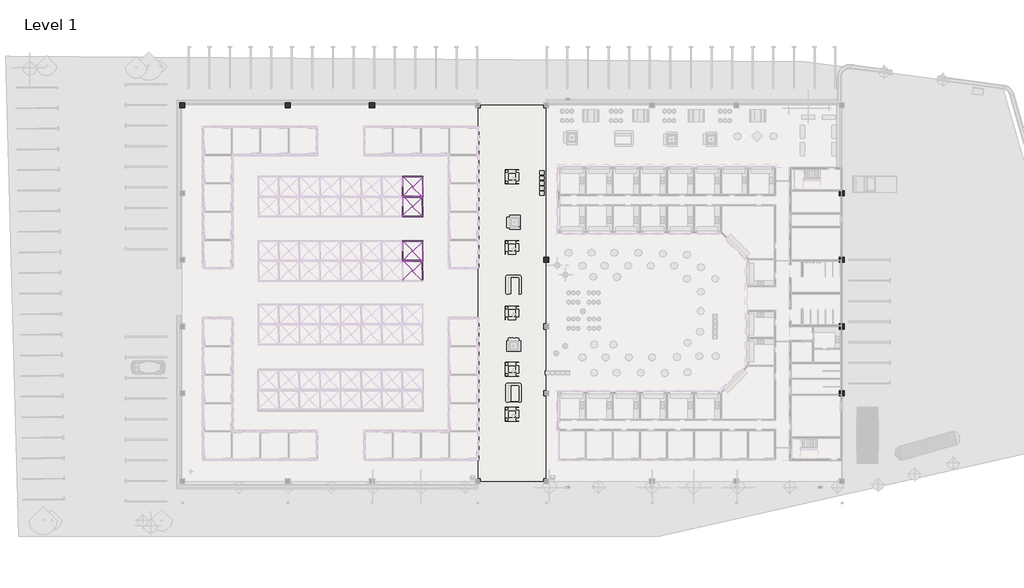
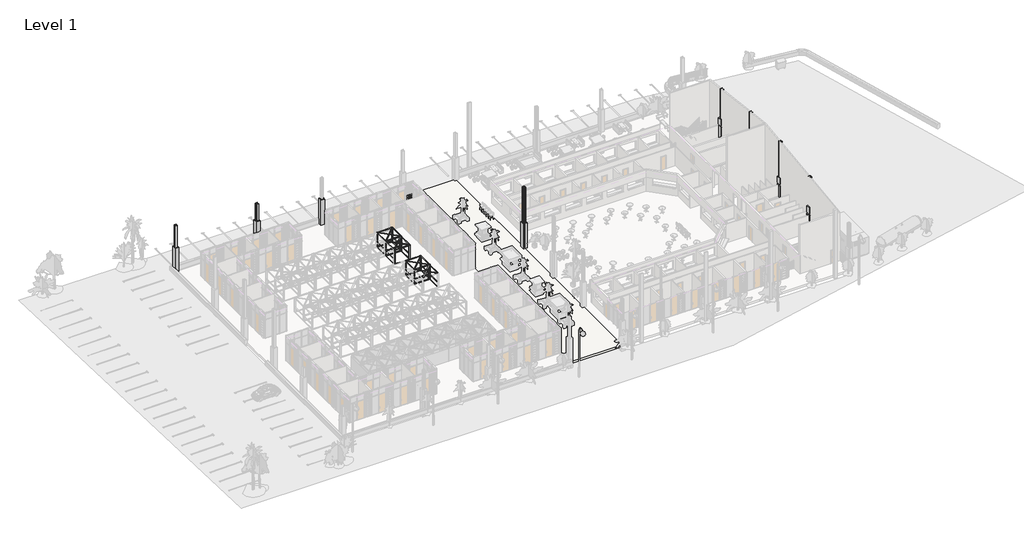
# One storey, part 26 of 32: 47 beams, 29 columns, 1 slab.
"""IFC4 building model written with IfcOpenShell, lengths in millimetres."""

from ifc_helpers import new_model, si_unit, point, frame, frame_2d, origin, place, context, project, spatial, polyline, circle_curve, trimmed, segment, composite_curve, outline, extrude, faceted_brep, transform, mapped, element, save
from components import timber_gauged_nz_100_x_50_a05adcf6, timber_gauged_nz_100_x_50_e4b9d06e, timber_gauged_nz_100_x_50_66b63d81, timber_gauged_nz_100_x_50_718b6390, timber_gauged_nz_100_x_50_7774ab14, timber_gauged_nz_100_x_50_be6c7ca1, timber_gauged_nz_100_x_50_6be5a70a, timber_gauged_nz_100_x_50_7b7bee40, timber_gauged_nz_100_x_50_flat_212af973, timber_gauged_nz_100_x_50_flat_8016973c, column_timber_m_114x114_3b5997c2

model = new_model("IFC4")

# Units and contexts
model_context = context("Model", 3, world=origin())
ifc_project = project(units=[si_unit("LENGTHUNIT", "METRE", prefix="MILLI")], contexts=[model_context])

# Site, building, storey
site = spatial("IfcSite", under=ifc_project)
building = spatial("IfcBuilding", under=site)
storey = spatial("IfcBuildingStorey", under=building, Name="Level 1", Elevation=2800.0)

# Beams
placement = place(None, origin())
timber_gauged_nz_100_x_50_shape = timber_gauged_nz_100_x_50_a05adcf6(model_context)
element("IfcBeam", 1, ObjectType="Timber Gauged (NZ) : 100 x 50", at=placement, inside=storey, context=model_context, shape_type="MappedRepresentation", body=[
    mapped(timber_gauged_nz_100_x_50_shape, transform((-62810.9556755, -10111.9011548, 2847.0), x_axis=(1.0, 0.0, 0.0), y_axis=(0.0, 1.0, 0.0), z_axis=(0.0, 0.0, 1.0))),
])
element("IfcBeam", 2, ObjectType="Timber Gauged (NZ) : 100 x 50", at=placement, inside=storey, context=model_context, shape_type="MappedRepresentation", body=[
    mapped(timber_gauged_nz_100_x_50_shape, transform((-62799.6556755, -10182.1175809, 2847.0), x_axis=(-1.0, 0.0, 0.0), y_axis=(0.0, -1.0, 0.0), z_axis=(0.0, 0.0, 1.0))),
])
element("IfcBeam", 3, ObjectType="Timber Gauged (NZ) : 100 x 50", at=placement, inside=storey, context=model_context, shape_type="MappedRepresentation", body=[
    mapped(timber_gauged_nz_100_x_50_shape, transform((-62810.9556755, -2611.9011548, 2847.0), x_axis=(1.0, 0.0, 0.0), y_axis=(0.0, 1.0, 0.0), z_axis=(0.0, 0.0, 1.0))),
])
element("IfcBeam", 4, ObjectType="Timber Gauged (NZ) : 100 x 50", at=placement, inside=storey, context=model_context, shape_type="MappedRepresentation", body=[
    mapped(timber_gauged_nz_100_x_50_shape, transform((-62799.6556755, -2682.1175809, 2847.0), x_axis=(-1.0, 0.0, 0.0), y_axis=(0.0, -1.0, 0.0), z_axis=(0.0, 0.0, 1.0))),
])
timber_gauged_nz_100_x_50_2_shape = timber_gauged_nz_100_x_50_e4b9d06e(model_context)
element("IfcBeam", 5, ObjectType="Timber Gauged (NZ) : 100 x 50", at=placement, inside=storey, context=model_context, shape_type="MappedRepresentation", body=[
    mapped(timber_gauged_nz_100_x_50_2_shape, transform((-62786.4806755, -7829.1175809, 2847.0), x_axis=(-1.0, 0.0, 0.0), y_axis=(0.0, -1.0, 0.0), z_axis=(0.0, 0.0, 1.0))),
])
element("IfcBeam", 6, ObjectType="Timber Gauged (NZ) : 100 x 50", at=placement, inside=storey, context=model_context, shape_type="MappedRepresentation", body=[
    mapped(timber_gauged_nz_100_x_50_2_shape, transform((-62824.1306755, -4964.9011548, 2847.0), x_axis=(1.0, 0.0, 0.0), y_axis=(0.0, 1.0, 0.0), z_axis=(0.0, 0.0, 1.0))),
])
element("IfcBeam", 7, ObjectType="Timber Gauged (NZ) : 100 x 50", at=placement, inside=storey, context=model_context, shape_type="MappedRepresentation", body=[
    mapped(timber_gauged_nz_100_x_50_2_shape, transform((-62786.4806755, -329.1175809, 2847.0), x_axis=(-1.0, 0.0, 0.0), y_axis=(0.0, -1.0, 0.0), z_axis=(0.0, 0.0, 1.0))),
])
timber_gauged_nz_100_x_50_3_shape = timber_gauged_nz_100_x_50_66b63d81(model_context)
element("IfcBeam", 8, ObjectType="Timber Gauged (NZ) : 100 x 50", at=placement, inside=storey, context=model_context, shape_type="MappedRepresentation", body=[
    mapped(timber_gauged_nz_100_x_50_3_shape, transform((-61623.1556755, -9005.6175809, 2847.0), x_axis=(0.0, 1.0, 0.0), y_axis=(-1.0, 0.0, 0.0), z_axis=(0.0, 0.0, 1.0))),
])
element("IfcBeam", 9, ObjectType="Timber Gauged (NZ) : 100 x 50", at=placement, inside=storey, context=model_context, shape_type="MappedRepresentation", body=[
    mapped(timber_gauged_nz_100_x_50_3_shape, transform((-63987.4556755, -3788.4011548, 2847.0), x_axis=(0.0, -1.0, 0.0), y_axis=(1.0, 0.0, 0.0), z_axis=(0.0, 0.0, 1.0))),
])
element("IfcBeam", 10, ObjectType="Timber Gauged (NZ) : 100 x 50", at=placement, inside=storey, context=model_context, shape_type="MappedRepresentation", body=[
    mapped(timber_gauged_nz_100_x_50_3_shape, transform((-61623.1556755, -1505.6175809, 2847.0), x_axis=(0.0, 1.0, 0.0), y_axis=(-1.0, 0.0, 0.0), z_axis=(0.0, 0.0, 1.0))),
])
element("IfcBeam", 11, ObjectType="Timber Gauged (NZ) : 100 x 50", at=placement, inside=storey, context=model_context, shape_type="MappedRepresentation", body=[
    mapped(timber_gauged_nz_100_x_50_3_shape, transform((-61634.4556755, -11288.4011548, 2847.0), x_axis=(0.0, -1.0, 0.0), y_axis=(1.0, 0.0, 0.0), z_axis=(0.0, 0.0, 1.0))),
])
element("IfcBeam", 12, ObjectType="Timber Gauged (NZ) : 100 x 50", at=placement, inside=storey, context=model_context, shape_type="MappedRepresentation", body=[
    mapped(timber_gauged_nz_100_x_50_3_shape, transform((-63976.1556755, -9005.6175809, 2847.0), x_axis=(0.0, 1.0, 0.0), y_axis=(-1.0, 0.0, 0.0), z_axis=(0.0, 0.0, 1.0))),
])
element("IfcBeam", 13, ObjectType="Timber Gauged (NZ) : 100 x 50", at=placement, inside=storey, context=model_context, shape_type="MappedRepresentation", body=[
    mapped(timber_gauged_nz_100_x_50_3_shape, transform((-61634.4556755, -3788.4011548, 2847.0), x_axis=(0.0, -1.0, 0.0), y_axis=(1.0, 0.0, 0.0), z_axis=(0.0, 0.0, 1.0))),
])
element("IfcBeam", 14, ObjectType="Timber Gauged (NZ) : 100 x 50", at=placement, inside=storey, context=model_context, shape_type="MappedRepresentation", body=[
    mapped(timber_gauged_nz_100_x_50_3_shape, transform((-63976.1556755, -1505.6175809, 2847.0), x_axis=(0.0, 1.0, 0.0), y_axis=(-1.0, 0.0, 0.0), z_axis=(0.0, 0.0, 1.0))),
])
timber_gauged_nz_100_x_50_4_shape = timber_gauged_nz_100_x_50_718b6390(model_context)
element("IfcBeam", 15, ObjectType="Timber Gauged (NZ) : 100 x 50", at=placement, inside=storey, context=model_context, shape_type="MappedRepresentation", body=[
    mapped(timber_gauged_nz_100_x_50_4_shape, transform((-62818.8056755, -10111.9011548, 5153.0), x_axis=(1.0, 0.0, 0.0), y_axis=(0.0, 1.0, 0.0), z_axis=(0.0, 0.0, 1.0))),
])
element("IfcBeam", 16, ObjectType="Timber Gauged (NZ) : 100 x 50", at=placement, inside=storey, context=model_context, shape_type="MappedRepresentation", body=[
    mapped(timber_gauged_nz_100_x_50_4_shape, transform((-62818.8056755, -10111.9011548, 3653.0), x_axis=(1.0, 0.0, 0.0), y_axis=(0.0, 1.0, 0.0), z_axis=(0.0, 0.0, 1.0))),
])
element("IfcBeam", 17, ObjectType="Timber Gauged (NZ) : 100 x 50", at=placement, inside=storey, context=model_context, shape_type="MappedRepresentation", body=[
    mapped(timber_gauged_nz_100_x_50_4_shape, transform((-62791.8056755, -10182.1175809, 5153.0), x_axis=(-1.0, 0.0, 0.0), y_axis=(0.0, -1.0, 0.0), z_axis=(0.0, 0.0, 1.0))),
])
element("IfcBeam", 18, ObjectType="Timber Gauged (NZ) : 100 x 50", at=placement, inside=storey, context=model_context, shape_type="MappedRepresentation", body=[
    mapped(timber_gauged_nz_100_x_50_4_shape, transform((-62791.8056755, -10182.1175809, 3653.0), x_axis=(-1.0, 0.0, 0.0), y_axis=(0.0, -1.0, 0.0), z_axis=(0.0, 0.0, 1.0))),
])
element("IfcBeam", 19, ObjectType="Timber Gauged (NZ) : 100 x 50", at=placement, inside=storey, context=model_context, shape_type="MappedRepresentation", body=[
    mapped(timber_gauged_nz_100_x_50_4_shape, transform((-62818.8056755, -2611.9011548, 5153.0), x_axis=(1.0, 0.0, 0.0), y_axis=(0.0, 1.0, 0.0), z_axis=(0.0, 0.0, 1.0))),
])
element("IfcBeam", 20, ObjectType="Timber Gauged (NZ) : 100 x 50", at=placement, inside=storey, context=model_context, shape_type="MappedRepresentation", body=[
    mapped(timber_gauged_nz_100_x_50_4_shape, transform((-62818.8056755, -2611.9011548, 3653.0), x_axis=(1.0, 0.0, 0.0), y_axis=(0.0, 1.0, 0.0), z_axis=(0.0, 0.0, 1.0))),
])
element("IfcBeam", 21, ObjectType="Timber Gauged (NZ) : 100 x 50", at=placement, inside=storey, context=model_context, shape_type="MappedRepresentation", body=[
    mapped(timber_gauged_nz_100_x_50_4_shape, transform((-62791.8056755, -2682.1175809, 5153.0), x_axis=(-1.0, 0.0, 0.0), y_axis=(0.0, -1.0, 0.0), z_axis=(0.0, 0.0, 1.0))),
])
element("IfcBeam", 22, ObjectType="Timber Gauged (NZ) : 100 x 50", at=placement, inside=storey, context=model_context, shape_type="MappedRepresentation", body=[
    mapped(timber_gauged_nz_100_x_50_4_shape, transform((-62791.8056755, -2682.1175809, 3653.0), x_axis=(-1.0, 0.0, 0.0), y_axis=(0.0, -1.0, 0.0), z_axis=(0.0, 0.0, 1.0))),
])
timber_gauged_nz_100_x_50_5_shape = timber_gauged_nz_100_x_50_7774ab14(model_context)
element("IfcBeam", 23, ObjectType="Timber Gauged (NZ) : 100 x 50", at=placement, inside=storey, context=model_context, shape_type="MappedRepresentation", body=[
    mapped(timber_gauged_nz_100_x_50_5_shape, transform((-62804.3056755, -7829.1175809, 5153.0), x_axis=(-1.0, 0.0, 0.0), y_axis=(0.0, -1.0, 0.0), z_axis=(0.0, 0.0, 1.0))),
])
element("IfcBeam", 24, ObjectType="Timber Gauged (NZ) : 100 x 50", at=placement, inside=storey, context=model_context, shape_type="MappedRepresentation", body=[
    mapped(timber_gauged_nz_100_x_50_5_shape, transform((-62806.3056755, -4964.9011548, 5153.0), x_axis=(1.0, 0.0, 0.0), y_axis=(0.0, 1.0, 0.0), z_axis=(0.0, 0.0, 1.0))),
])
element("IfcBeam", 25, ObjectType="Timber Gauged (NZ) : 100 x 50", at=placement, inside=storey, context=model_context, shape_type="MappedRepresentation", body=[
    mapped(timber_gauged_nz_100_x_50_5_shape, transform((-62804.3056755, -329.1175809, 5153.0), x_axis=(-1.0, 0.0, 0.0), y_axis=(0.0, -1.0, 0.0), z_axis=(0.0, 0.0, 1.0))),
])
timber_gauged_nz_100_x_50_6_shape = timber_gauged_nz_100_x_50_be6c7ca1(model_context)
element("IfcBeam", 26, ObjectType="Timber Gauged (NZ) : 100 x 50", at=placement, inside=storey, context=model_context, shape_type="MappedRepresentation", body=[
    mapped(timber_gauged_nz_100_x_50_6_shape, transform((-61623.1556755, -9074.1175809, 5153.0), x_axis=(0.0, 1.0, 0.0), y_axis=(-1.0, 0.0, 0.0), z_axis=(0.0, 0.0, 1.0))),
])
element("IfcBeam", 27, ObjectType="Timber Gauged (NZ) : 100 x 50", at=placement, inside=storey, context=model_context, shape_type="MappedRepresentation", body=[
    mapped(timber_gauged_nz_100_x_50_6_shape, transform((-63987.4556755, -3719.9011548, 5153.0), x_axis=(0.0, -1.0, 0.0), y_axis=(1.0, 0.0, 0.0), z_axis=(0.0, 0.0, 1.0))),
])
element("IfcBeam", 28, ObjectType="Timber Gauged (NZ) : 100 x 50", at=placement, inside=storey, context=model_context, shape_type="MappedRepresentation", body=[
    mapped(timber_gauged_nz_100_x_50_6_shape, transform((-61623.1556755, -1574.1175809, 5153.0), x_axis=(0.0, 1.0, 0.0), y_axis=(-1.0, 0.0, 0.0), z_axis=(0.0, 0.0, 1.0))),
])
timber_gauged_nz_100_x_50_7_shape = timber_gauged_nz_100_x_50_6be5a70a(model_context)
element("IfcBeam", 29, ObjectType="Timber Gauged (NZ) : 100 x 50", at=placement, inside=storey, context=model_context, shape_type="MappedRepresentation", body=[
    mapped(timber_gauged_nz_100_x_50_7_shape, transform((-61634.4556755, -11264.9011548, 5153.0), x_axis=(0.0, -1.0, 0.0), y_axis=(1.0, 0.0, 0.0), z_axis=(0.0, 0.0, 1.0))),
])
element("IfcBeam", 30, ObjectType="Timber Gauged (NZ) : 100 x 50", at=placement, inside=storey, context=model_context, shape_type="MappedRepresentation", body=[
    mapped(timber_gauged_nz_100_x_50_7_shape, transform((-63976.1556755, -9029.1175809, 5153.0), x_axis=(0.0, 1.0, 0.0), y_axis=(-1.0, 0.0, 0.0), z_axis=(0.0, 0.0, 1.0))),
])
element("IfcBeam", 31, ObjectType="Timber Gauged (NZ) : 100 x 50", at=placement, inside=storey, context=model_context, shape_type="MappedRepresentation", body=[
    mapped(timber_gauged_nz_100_x_50_7_shape, transform((-61634.4556755, -3764.9011548, 5153.0), x_axis=(0.0, -1.0, 0.0), y_axis=(1.0, 0.0, 0.0), z_axis=(0.0, 0.0, 1.0))),
])
element("IfcBeam", 32, ObjectType="Timber Gauged (NZ) : 100 x 50", at=placement, inside=storey, context=model_context, shape_type="MappedRepresentation", body=[
    mapped(timber_gauged_nz_100_x_50_7_shape, transform((-63976.1556755, -1529.1175809, 5153.0), x_axis=(0.0, 1.0, 0.0), y_axis=(-1.0, 0.0, 0.0), z_axis=(0.0, 0.0, 1.0))),
])
timber_gauged_nz_100_x_50_8_shape = timber_gauged_nz_100_x_50_7b7bee40(model_context)
element("IfcBeam", 33, ObjectType="Timber Gauged (NZ) : 100 x 50", at=placement, inside=storey, context=model_context, shape_type="MappedRepresentation", body=[
    mapped(timber_gauged_nz_100_x_50_8_shape, transform((-61623.1556755, -8949.1175809, 3653.0), x_axis=(0.0, 1.0, 0.0), y_axis=(-1.0, 0.0, 0.0), z_axis=(0.0, 0.0, 1.0))),
])
element("IfcBeam", 34, ObjectType="Timber Gauged (NZ) : 100 x 50", at=placement, inside=storey, context=model_context, shape_type="MappedRepresentation", body=[
    mapped(timber_gauged_nz_100_x_50_8_shape, transform((-63987.4556755, -3844.9011548, 3653.0), x_axis=(0.0, -1.0, 0.0), y_axis=(1.0, 0.0, 0.0), z_axis=(0.0, 0.0, 1.0))),
])
element("IfcBeam", 35, ObjectType="Timber Gauged (NZ) : 100 x 50", at=placement, inside=storey, context=model_context, shape_type="MappedRepresentation", body=[
    mapped(timber_gauged_nz_100_x_50_8_shape, transform((-61623.1556755, -1449.1175809, 3653.0), x_axis=(0.0, 1.0, 0.0), y_axis=(-1.0, 0.0, 0.0), z_axis=(0.0, 0.0, 1.0))),
])
element("IfcBeam", 36, ObjectType="Timber Gauged (NZ) : 100 x 50", at=placement, inside=storey, context=model_context, shape_type="MappedRepresentation", body=[
    mapped(timber_gauged_nz_100_x_50_7_shape, transform((-61634.4556755, -11264.7011548, 3653.0), x_axis=(0.0, -1.0, 0.0), y_axis=(1.0, 0.0, 0.0), z_axis=(0.0, 0.0, 1.0))),
])
element("IfcBeam", 37, ObjectType="Timber Gauged (NZ) : 100 x 50", at=placement, inside=storey, context=model_context, shape_type="MappedRepresentation", body=[
    mapped(timber_gauged_nz_100_x_50_7_shape, transform((-63976.1556755, -9029.3175809, 3653.0), x_axis=(0.0, 1.0, 0.0), y_axis=(-1.0, 0.0, 0.0), z_axis=(0.0, 0.0, 1.0))),
])
element("IfcBeam", 38, ObjectType="Timber Gauged (NZ) : 100 x 50", at=placement, inside=storey, context=model_context, shape_type="MappedRepresentation", body=[
    mapped(timber_gauged_nz_100_x_50_7_shape, transform((-61634.4556755, -3764.7011548, 3653.0), x_axis=(0.0, -1.0, 0.0), y_axis=(1.0, 0.0, 0.0), z_axis=(0.0, 0.0, 1.0))),
])
element("IfcBeam", 39, ObjectType="Timber Gauged (NZ) : 100 x 50", at=placement, inside=storey, context=model_context, shape_type="MappedRepresentation", body=[
    mapped(timber_gauged_nz_100_x_50_7_shape, transform((-63976.1556755, -1529.3175809, 3653.0), x_axis=(0.0, 1.0, 0.0), y_axis=(-1.0, 0.0, 0.0), z_axis=(0.0, 0.0, 1.0))),
])
timber_gauged_nz_100_x_50_flat_shape = timber_gauged_nz_100_x_50_flat_212af973(model_context)
element("IfcBeam", 40, ObjectType="Timber Gauged (NZ) : 100 x 50 Flat", at=placement, inside=storey, context=model_context, shape_type="MappedRepresentation", body=[
    mapped(timber_gauged_nz_100_x_50_flat_shape, transform((-62806.7150144, -11283.5138698, 5176.5), x_axis=(0.707106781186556, 0.7071067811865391, 0.0), y_axis=(-0.7071067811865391, 0.707106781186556, 0.0), z_axis=(0.0, 0.0, 1.0))),
])
element("IfcBeam", 41, ObjectType="Timber Gauged (NZ) : 100 x 50 Flat", at=placement, inside=storey, context=model_context, shape_type="MappedRepresentation", body=[
    mapped(timber_gauged_nz_100_x_50_flat_shape, transform((-62803.8963365, -9010.5048659, 5176.5), x_axis=(-0.7071067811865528, -0.7071067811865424, 0.0), y_axis=(0.7071067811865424, -0.7071067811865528, 0.0), z_axis=(0.0, 0.0, 1.0))),
])
element("IfcBeam", 42, ObjectType="Timber Gauged (NZ) : 100 x 50 Flat", at=placement, inside=storey, context=model_context, shape_type="MappedRepresentation", body=[
    mapped(timber_gauged_nz_100_x_50_flat_shape, transform((-62806.7150144, -3783.5138698, 5176.5), x_axis=(0.707106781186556, 0.7071067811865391, 0.0), y_axis=(-0.7071067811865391, 0.707106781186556, 0.0), z_axis=(0.0, 0.0, 1.0))),
])
element("IfcBeam", 43, ObjectType="Timber Gauged (NZ) : 100 x 50 Flat", at=placement, inside=storey, context=model_context, shape_type="MappedRepresentation", body=[
    mapped(timber_gauged_nz_100_x_50_flat_shape, transform((-62803.8963365, -1510.5048659, 5176.5), x_axis=(-0.7071067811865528, -0.7071067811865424, 0.0), y_axis=(0.7071067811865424, -0.7071067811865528, 0.0), z_axis=(0.0, 0.0, 1.0))),
])
timber_gauged_nz_100_x_50_flat_2_shape = timber_gauged_nz_100_x_50_flat_8016973c(model_context)
element("IfcBeam", 44, ObjectType="Timber Gauged (NZ) : 100 x 50 Flat", at=placement, inside=storey, context=model_context, shape_type="MappedRepresentation", body=[
    mapped(timber_gauged_nz_100_x_50_flat_2_shape, transform((-62860.4551298, -11238.2590359, 5176.5), x_axis=(0.7071067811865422, -0.7071067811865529, 0.0), y_axis=(0.7071067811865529, 0.7071067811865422, 0.0), z_axis=(0.0, 0.0, 1.0))),
])
element("IfcBeam", 45, ObjectType="Timber Gauged (NZ) : 100 x 50 Flat", at=placement, inside=storey, context=model_context, shape_type="MappedRepresentation", body=[
    mapped(timber_gauged_nz_100_x_50_flat_2_shape, transform((-62750.1562211, -9055.7596999, 5176.5), x_axis=(-0.7071067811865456, 0.7071067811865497, 0.0), y_axis=(-0.7071067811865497, -0.7071067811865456, 0.0), z_axis=(0.0, 0.0, 1.0))),
])
element("IfcBeam", 46, ObjectType="Timber Gauged (NZ) : 100 x 50 Flat", at=placement, inside=storey, context=model_context, shape_type="MappedRepresentation", body=[
    mapped(timber_gauged_nz_100_x_50_flat_2_shape, transform((-62860.4551298, -3738.2590359, 5176.5), x_axis=(0.7071067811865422, -0.7071067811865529, 0.0), y_axis=(0.7071067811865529, 0.7071067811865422, 0.0), z_axis=(0.0, 0.0, 1.0))),
])
element("IfcBeam", 47, ObjectType="Timber Gauged (NZ) : 100 x 50 Flat", at=placement, inside=storey, context=model_context, shape_type="MappedRepresentation", body=[
    mapped(timber_gauged_nz_100_x_50_flat_2_shape, transform((-62750.1562211, -1555.7596999, 5176.5), x_axis=(-0.7071067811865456, 0.7071067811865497, 0.0), y_axis=(-0.7071067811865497, -0.7071067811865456, 0.0), z_axis=(0.0, 0.0, 1.0))),
])

# Columns
element("IfcColumn", 48, ObjectType="Column Concrete-Square (M) : 600 x 600mm", at=placement, inside=storey, context=model_context, shape_type="Brep", body=[
    faceted_brep([(-13100.7705062, -25845.9199596, 2000.0), (-13100.7705062, -25245.9199596, 2000.0), (-12500.7705062, -25245.9199596, 2000.0), (-12500.7705062, -25845.9199596, 2000.0), (-12500.7705062, -25245.9199596, 6800.0), (-12500.7705062, -25845.9199596, 6800.0), (-12960.7705062, -25245.9199596, 2800.0), (-12960.7705062, -25245.9199596, 5589.0), (-12960.7705062, -25655.5199596, 5589.0), (-12960.7705062, -25655.5199596, 2800.0), (-12760.7705062, -25245.9199596, 6800.0), (-12760.7705062, -25245.9199596, 2800.0), (-12760.7705062, -25845.9199596, 2800.0), (-12760.7705062, -25845.9199596, 6800.0), (-13100.7705062, -25655.5199596, 2800.0), (-13100.7705062, -25805.5199596, 2800.0), (-12960.7705062, -25805.5199596, 2800.0), (-12960.7705062, -25845.9199596, 2800.0), (-13100.7705062, -25245.9199596, 5589.0), (-13100.7705062, -25655.5199596, 5589.0), (-13100.7705062, -25845.9199596, 5589.0), (-13100.7705062, -25805.5199596, 5589.0), (-12960.7705062, -25845.9199596, 5589.0), (-12960.7705062, -25805.5199596, 5589.0)], [[[0, 1, 2, 3]], [[3, 2, 4, 5]], [[6, 7, 8, 9]], [[10, 11, 12, 13]], [[11, 6, 9, 14, 15, 16, 17, 12]], [[5, 4, 10, 13]], [[7, 18, 19, 8]], [[1, 0, 20, 21, 15, 14, 19, 18]], [[2, 1, 18, 7, 6, 11, 10, 4]], [[0, 3, 5, 13, 12, 17, 22, 20]], [[14, 9, 8, 19]], [[16, 15, 21, 23]], [[22, 17, 16, 23]], [[20, 22, 23, 21]]]),
    faceted_brep([(-13100.7705062, -25845.9199596, 6800.0), (-13100.7705062, -25245.9199596, 6800.0), (-13100.7705062, -25245.9199596, 5800.0), (-13100.7705062, -25845.9199596, 5800.0), (-12960.7705062, -25245.9199596, 6800.0), (-12960.7705062, -25245.9199596, 5800.0), (-12960.7705062, -25845.9199596, 6800.0), (-12960.7705062, -25845.9199596, 5800.0)], [[[0, 1, 2, 3]], [[1, 4, 5, 2]], [[6, 0, 3, 7]], [[1, 0, 6, 4]], [[3, 2, 5, 7]], [[4, 6, 7, 5]]]),
])
element("IfcColumn", 49, ObjectType="Column Concrete-Square (M) : 600 x 600mm", at=placement, inside=storey, context=model_context, shape_type="Brep", body=[
    faceted_brep([(-13100.7705062, -18085.9199596, 2000.0), (-13100.7705062, -17485.9199596, 2000.0), (-12500.7705062, -17485.9199596, 2000.0), (-12500.7705062, -18085.9199596, 2000.0), (-12500.7705062, -17485.9199596, 6800.0), (-12500.7705062, -18085.9199596, 6800.0), (-12960.7705062, -17485.9199596, 2800.0), (-12960.7705062, -17485.9199596, 5589.0), (-12960.7705062, -17605.9199596, 5589.0), (-12960.7705062, -17605.9199596, 2800.0), (-12760.7705062, -17485.9199596, 6800.0), (-12760.7705062, -17485.9199596, 2800.0), (-12760.7705062, -18085.9199596, 2800.0), (-12760.7705062, -18085.9199596, 6800.0), (-13100.7705062, -17605.9199596, 2800.0), (-13100.7705062, -17805.9199596, 2800.0), (-12960.7705062, -17805.9199596, 2800.0), (-12960.7705062, -18085.9199596, 2800.0), (-13100.7705062, -17485.9199596, 5589.0), (-13100.7705062, -17605.9199596, 5589.0), (-13100.7705062, -18085.9199596, 5589.0), (-13100.7705062, -17805.9199596, 5589.0), (-12960.7705062, -18085.9199596, 5589.0), (-12960.7705062, -17805.9199596, 5589.0)], [[[0, 1, 2, 3]], [[3, 2, 4, 5]], [[6, 7, 8, 9]], [[10, 11, 12, 13]], [[11, 6, 9, 14, 15, 16, 17, 12]], [[5, 4, 10, 13]], [[7, 18, 19, 8]], [[1, 0, 20, 21, 15, 14, 19, 18]], [[2, 1, 18, 7, 6, 11, 10, 4]], [[0, 3, 5, 13, 12, 17, 22, 20]], [[14, 9, 8, 19]], [[16, 15, 21, 23]], [[22, 17, 16, 23]], [[20, 22, 23, 21]]]),
    faceted_brep([(-13100.7705062, -18085.9199596, 6800.0), (-13100.7705062, -17485.9199596, 6800.0), (-13100.7705062, -17485.9199596, 5800.0), (-13100.7705062, -18085.9199596, 5800.0), (-12960.7705062, -17485.9199596, 6800.0), (-12960.7705062, -17485.9199596, 5800.0), (-12960.7705062, -18085.9199596, 6800.0), (-12960.7705062, -18085.9199596, 5800.0)], [[[0, 1, 2, 3]], [[1, 4, 5, 2]], [[6, 0, 3, 7]], [[1, 0, 6, 4]], [[3, 2, 5, 7]], [[4, 6, 7, 5]]]),
])
element("IfcColumn", 50, ObjectType="Column Concrete-Square (M) : 600 x 600mm", at=placement, inside=storey, context=model_context, shape_type="Brep", body=[
    faceted_brep([(-13100.7705062, -10325.9199596, 2000.0), (-13100.7705062, -9725.9199596, 2000.0), (-12500.7705062, -9725.9199596, 2000.0), (-12500.7705062, -10325.9199596, 2000.0), (-12500.7705062, -9725.9199596, 6800.0), (-12500.7705062, -10325.9199596, 6800.0), (-12960.7705062, -9725.9199596, 2800.0), (-12960.7705062, -9725.9199596, 5589.0), (-12960.7705062, -10005.9199596, 5589.0), (-12960.7705062, -10005.9199596, 2800.0), (-12760.7705062, -9725.9199596, 6800.0), (-12760.7705062, -9725.9199596, 2800.0), (-12760.7705062, -10325.9199596, 2800.0), (-12760.7705062, -10325.9199596, 6800.0), (-13100.7705062, -10005.9199596, 2800.0), (-13100.7705062, -10205.9199596, 2800.0), (-12960.7705062, -10205.9199596, 2800.0), (-12960.7705062, -10325.9199596, 2800.0), (-13100.7705062, -9725.9199596, 5589.0), (-13100.7705062, -10005.9199596, 5589.0), (-13100.7705062, -10325.9199596, 5589.0), (-13100.7705062, -10205.9199596, 5589.0), (-12960.7705062, -10325.9199596, 5589.0), (-12960.7705062, -10205.9199596, 5589.0)], [[[0, 1, 2, 3]], [[3, 2, 4, 5]], [[6, 7, 8, 9]], [[10, 11, 12, 13]], [[11, 6, 9, 14, 15, 16, 17, 12]], [[5, 4, 10, 13]], [[7, 18, 19, 8]], [[1, 0, 20, 21, 15, 14, 19, 18]], [[2, 1, 18, 7, 6, 11, 10, 4]], [[0, 3, 5, 13, 12, 17, 22, 20]], [[14, 9, 8, 19]], [[16, 15, 21, 23]], [[22, 17, 16, 23]], [[20, 22, 23, 21]]]),
    faceted_brep([(-13100.7705062, -10325.9199596, 6800.0), (-13100.7705062, -9725.9199596, 6800.0), (-13100.7705062, -9725.9199596, 5800.0), (-13100.7705062, -10325.9199596, 5800.0), (-12960.7705062, -9725.9199596, 6800.0), (-12960.7705062, -9725.9199596, 5800.0), (-12960.7705062, -10325.9199596, 6800.0), (-12960.7705062, -10325.9199596, 5800.0)], [[[0, 1, 2, 3]], [[1, 4, 5, 2]], [[6, 0, 3, 7]], [[1, 0, 6, 4]], [[3, 2, 5, 7]], [[4, 6, 7, 5]]]),
])
element("IfcColumn", 51, ObjectType="Column Concrete-Square (M) : 600 x 600mm", at=placement, inside=storey, context=model_context, shape_type="SweptSolid", body=[
    extrude(outline(polyline([(-47530.3056755, -10325.9199596), (-47530.3056755, -9725.9199596), (-46930.3056755, -9725.9199596), (-46930.3056755, -10325.9199596), (-47530.3056755, -10325.9199596)])), frame((0.0, 0.0, 2800.0), z_axis=(0.0, 0.0, 1.0), x_axis=(1.0, 0.0, 0.0)), (0.0, 0.0, 1.0), 4000.0),
])
element("IfcColumn", 52, ObjectType="Column Concrete-Square (M) : 600 x 600mm", at=placement, inside=storey, context=model_context, shape_type="Brep", body=[
    faceted_brep([(-89359.8408447, 7694.0800404, 2000.0), (-89652.2528943, 7694.0800404, 2000.0), (-89652.2528943, 7978.5855015, 2000.0), (-89359.8408447, 7978.5855015, 2000.0), (-89359.8408447, 8294.0800404, 6800.0), (-89359.8408447, 7694.0800404, 6800.0), (-89359.8408447, 7978.5855015, 2800.0), (-89359.8408447, 8294.0800404, 2800.0), (-89959.8408447, 8294.0800404, 6800.0), (-89959.8408447, 8294.0800404, 2800.0), (-89959.8408447, 7694.0800404, 6800.0), (-89959.8408447, 7694.0800404, 2800.0), (-89652.2528943, 7694.0800404, 2800.0), (-89652.2528943, 7978.5855015, 2800.0)], [[[0, 1, 2, 3]], [[4, 5, 0, 3, 6, 7]], [[8, 4, 7, 9]], [[10, 8, 9, 11]], [[0, 5, 10, 11, 12, 1]], [[5, 4, 8, 10]], [[9, 7, 6, 13, 12, 11]], [[12, 13, 2, 1]], [[13, 6, 3, 2]]]),
])
element("IfcColumn", 53, ObjectType="Column Concrete-Square (M) : 600 x 600mm", at=placement, inside=storey, context=model_context, shape_type="SweptSolid", body=[
    extrude(outline(polyline([(7694.0800404, 6800.0), (8294.0800404, 6800.0), (8294.0800404, 2800.0), (7978.5855015, 2800.0), (7978.5855015, 2000.0), (7694.0800404, 2000.0), (7694.0800404, 6800.0)])), frame((-77659.8408447, 0.0, 0.0), z_axis=(1.0, 0.0, 0.0), x_axis=(0.0, 1.0, 0.0)), (0.0, 0.0, 1.0), 600.0),
])
element("IfcColumn", 54, ObjectType="Column Concrete-Square (M) : 600 x 600mm", at=placement, inside=storey, context=model_context, shape_type="SweptSolid", body=[
    extrude(outline(polyline([(7694.0800404, 6800.0), (8294.0800404, 6800.0), (8294.0800404, 2800.0), (7978.5855015, 2800.0), (7978.5855015, 2000.0), (7694.0800404, 2000.0), (7694.0800404, 6800.0)])), frame((-67830.3056755, 0.0, 0.0), z_axis=(1.0, 0.0, 0.0), x_axis=(0.0, 1.0, 0.0)), (0.0, 0.0, 1.0), 600.0),
])
element("IfcColumn", 55, ObjectType="Column Concrete-Square (M) : 600 x 600mm", at=placement, inside=storey, context=model_context, shape_type="Brep", body=[
    faceted_brep([(-13100.7705062, -2565.9199596, 2000.0), (-13100.7705062, -1965.9199596, 2000.0), (-12500.7705062, -1965.9199596, 2000.0), (-12500.7705062, -2565.9199596, 2000.0), (-12500.7705062, -1965.9199596, 6800.0), (-12500.7705062, -2565.9199596, 6800.0), (-13100.7705062, -2565.9199596, 5589.0), (-12960.7705062, -2565.9199596, 5589.0), (-12960.7705062, -2056.3199596, 5589.0), (-13100.7705062, -2056.3199596, 5589.0), (-13100.7705062, -2056.3199596, 2800.0), (-13100.7705062, -1965.9199596, 2800.0), (-12960.7705062, -2565.9199596, 2800.0), (-12960.7705062, -2056.3199596, 2800.0), (-12760.7705062, -1965.9199596, 2800.0), (-12760.7705062, -2565.9199596, 2800.0), (-12760.7705062, -2565.9199596, 6800.0), (-12760.7705062, -1965.9199596, 6800.0)], [[[0, 1, 2, 3]], [[3, 2, 4, 5]], [[6, 7, 8, 9]], [[1, 0, 6, 9, 10, 11]], [[7, 12, 13, 8]], [[14, 15, 16, 17]], [[15, 14, 11, 10, 13, 12]], [[2, 1, 11, 14, 17, 4]], [[0, 3, 5, 16, 15, 12, 7, 6]], [[5, 4, 17, 16]], [[13, 10, 9, 8]]]),
    faceted_brep([(-13100.7705062, -2565.9199596, 6800.0), (-13100.7705062, -1965.9199596, 6800.0), (-13100.7705062, -1965.9199596, 5800.0), (-13100.7705062, -2565.9199596, 5800.0), (-12960.7705062, -1965.9199596, 6800.0), (-12960.7705062, -1965.9199596, 5800.0), (-12960.7705062, -2565.9199596, 5800.0), (-12960.7705062, -2565.9199596, 6800.0)], [[[0, 1, 2, 3]], [[2, 1, 4, 5]], [[0, 3, 6, 7]], [[1, 0, 7, 4]], [[3, 2, 5, 6]], [[5, 4, 7, 6]]]),
])
column_timber_m_114x114_shape = column_timber_m_114x114_3b5997c2(model_context)
element("IfcColumn", 56, ObjectType="Column Timber (M) : 114x114", at=placement, inside=storey, context=model_context, shape_type="MappedRepresentation", body=[
    mapped(column_timber_m_114x114_shape, transform((-63953.8056755, -10145.5511548, 0.0), x_axis=(1.0, 0.0, 0.0), y_axis=(0.0, 1.0, 0.0), z_axis=(0.0, 0.0, 1.0))),
])
element("IfcColumn", 57, ObjectType="Column Timber (M) : 114x114", at=placement, inside=storey, context=model_context, shape_type="MappedRepresentation", body=[
    mapped(column_timber_m_114x114_shape, transform((-61668.1056755, -10145.5511548, 0.0), x_axis=(1.0, 0.0, 0.0), y_axis=(0.0, 1.0, 0.0), z_axis=(0.0, 0.0, 1.0))),
])
element("IfcColumn", 58, ObjectType="Column Timber (M) : 114x114", at=placement, inside=storey, context=model_context, shape_type="MappedRepresentation", body=[
    mapped(column_timber_m_114x114_shape, transform((-61656.8056755, -7862.7675809, 0.0), x_axis=(-1.0, 0.0, 0.0), y_axis=(0.0, -1.0, 0.0), z_axis=(0.0, 0.0, 1.0))),
])
element("IfcColumn", 59, ObjectType="Column Timber (M) : 114x114", at=placement, inside=storey, context=model_context, shape_type="MappedRepresentation", body=[
    mapped(column_timber_m_114x114_shape, transform((-61656.8056755, -10148.4675809, 0.0), x_axis=(-1.0, 0.0, 0.0), y_axis=(0.0, -1.0, 0.0), z_axis=(0.0, 0.0, 1.0))),
])
element("IfcColumn", 60, ObjectType="Column Timber (M) : 114x114", at=placement, inside=storey, context=model_context, shape_type="MappedRepresentation", body=[
    mapped(column_timber_m_114x114_shape, transform((-63942.5056755, -10148.4675809, 0.0), x_axis=(-1.0, 0.0, 0.0), y_axis=(0.0, -1.0, 0.0), z_axis=(0.0, 0.0, 1.0))),
])
element("IfcColumn", 61, ObjectType="Column Timber (M) : 114x114", at=placement, inside=storey, context=model_context, shape_type="MappedRepresentation", body=[
    mapped(column_timber_m_114x114_shape, transform((-63942.5056755, -7862.7675809, 0.0), x_axis=(-1.0, 0.0, 0.0), y_axis=(0.0, -1.0, 0.0), z_axis=(0.0, 0.0, 1.0))),
])
element("IfcColumn", 62, ObjectType="Column Timber (M) : 114x114", at=placement, inside=storey, context=model_context, shape_type="MappedRepresentation", body=[
    mapped(column_timber_m_114x114_shape, transform((-63953.8056755, -4931.2511548, 0.0), x_axis=(1.0, 0.0, 0.0), y_axis=(0.0, 1.0, 0.0), z_axis=(0.0, 0.0, 1.0))),
])
element("IfcColumn", 63, ObjectType="Column Timber (M) : 114x114", at=placement, inside=storey, context=model_context, shape_type="MappedRepresentation", body=[
    mapped(column_timber_m_114x114_shape, transform((-63953.8056755, -2645.5511548, 0.0), x_axis=(1.0, 0.0, 0.0), y_axis=(0.0, 1.0, 0.0), z_axis=(0.0, 0.0, 1.0))),
])
element("IfcColumn", 64, ObjectType="Column Timber (M) : 114x114", at=placement, inside=storey, context=model_context, shape_type="MappedRepresentation", body=[
    mapped(column_timber_m_114x114_shape, transform((-61668.1056755, -2645.5511548, 0.0), x_axis=(1.0, 0.0, 0.0), y_axis=(0.0, 1.0, 0.0), z_axis=(0.0, 0.0, 1.0))),
])
element("IfcColumn", 65, ObjectType="Column Timber (M) : 114x114", at=placement, inside=storey, context=model_context, shape_type="MappedRepresentation", body=[
    mapped(column_timber_m_114x114_shape, transform((-61668.1056755, -4931.2511548, 0.0), x_axis=(1.0, 0.0, 0.0), y_axis=(0.0, 1.0, 0.0), z_axis=(0.0, 0.0, 1.0))),
])
element("IfcColumn", 66, ObjectType="Column Timber (M) : 114x114", at=placement, inside=storey, context=model_context, shape_type="MappedRepresentation", body=[
    mapped(column_timber_m_114x114_shape, transform((-61656.8056755, -362.7675809, 0.0), x_axis=(-1.0, 0.0, 0.0), y_axis=(0.0, -1.0, 0.0), z_axis=(0.0, 0.0, 1.0))),
])
element("IfcColumn", 67, ObjectType="Column Timber (M) : 114x114", at=placement, inside=storey, context=model_context, shape_type="MappedRepresentation", body=[
    mapped(column_timber_m_114x114_shape, transform((-61656.8056755, -2648.4675809, 0.0), x_axis=(-1.0, 0.0, 0.0), y_axis=(0.0, -1.0, 0.0), z_axis=(0.0, 0.0, 1.0))),
])
element("IfcColumn", 68, ObjectType="Column Timber (M) : 114x114", at=placement, inside=storey, context=model_context, shape_type="MappedRepresentation", body=[
    mapped(column_timber_m_114x114_shape, transform((-63942.5056755, -2648.4675809, 0.0), x_axis=(-1.0, 0.0, 0.0), y_axis=(0.0, -1.0, 0.0), z_axis=(0.0, 0.0, 1.0))),
])
element("IfcColumn", 69, ObjectType="Column Timber (M) : 114x114", at=placement, inside=storey, context=model_context, shape_type="MappedRepresentation", body=[
    mapped(column_timber_m_114x114_shape, transform((-63942.5056755, -362.7675809, 0.0), x_axis=(-1.0, 0.0, 0.0), y_axis=(0.0, -1.0, 0.0), z_axis=(0.0, 0.0, 1.0))),
])
element("IfcColumn", 70, ObjectType="UC-Universal Columns-Column : UC305x305x97", at=placement, inside=storey, context=model_context, shape_type="SweptSolid", body=[
    extrude(outline(composite_curve([segment(polyline([(-47382.9556755, -10179.8699596), (-47382.9556755, -10164.4699596), (-47250.4556755, -10164.4699596)]), True, "CONTINUOUS"), segment(trimmed(circle_curve(frame_2d((-47250.4556755, -10149.2699596)), 15.2), [point((-47250.4556755, -10164.4699596))], [point((-47235.2556755, -10149.2699596))], True, "CARTESIAN"), True, "CONTINUOUS"), segment(polyline([(-47235.2556755, -10149.2699596), (-47235.2556755, -9902.5699596)]), True, "CONTINUOUS"), segment(trimmed(circle_curve(frame_2d((-47250.4556755, -9902.5699596)), 15.2), [point((-47235.2556755, -9902.5699596))], [point((-47250.4556755, -9887.3699596))], True, "CARTESIAN"), True, "CONTINUOUS"), segment(polyline([(-47250.4556755, -9887.3699596), (-47382.9556755, -9887.3699596), (-47382.9556755, -9871.9699596), (-47077.6556755, -9871.9699596), (-47077.6556755, -9887.3699596), (-47210.1556755, -9887.3699596)]), True, "CONTINUOUS"), segment(trimmed(circle_curve(frame_2d((-47210.1556755, -9902.5699596)), 15.2), [point((-47210.1556755, -9887.3699596))], [point((-47225.3556755, -9902.5699596))], True, "CARTESIAN"), True, "CONTINUOUS"), segment(polyline([(-47225.3556755, -9902.5699596), (-47225.3556755, -10149.2699596)]), True, "CONTINUOUS"), segment(trimmed(circle_curve(frame_2d((-47210.1556755, -10149.2699596)), 15.2), [point((-47225.3556755, -10149.2699596))], [point((-47210.1556755, -10164.4699596))], True, "CARTESIAN"), True, "CONTINUOUS"), segment(polyline([(-47210.1556755, -10164.4699596), (-47077.6556755, -10164.4699596), (-47077.6556755, -10179.8699596), (-47382.9556755, -10179.8699596)]), True, "CONTINUOUS")], self_intersect=False)), frame((0.0, 0.0, 2800.0), z_axis=(0.0, 0.0, 1.0), x_axis=(1.0, 0.0, 0.0)), (0.0, 0.0, 1.0), 9693.6751043),
])
element("IfcColumn", 71, ObjectType="UC-Universal Columns-Column : UC305x305x97", at=placement, inside=storey, context=model_context, shape_type="SweptSolid", body=[
    extrude(outline(composite_curve([segment(polyline([(-12953.4205062, -25699.8699596), (-12953.4205062, -25684.4699596), (-12820.9205062, -25684.4699596)]), True, "CONTINUOUS"), segment(trimmed(circle_curve(frame_2d((-12820.9205062, -25669.2699596)), 15.2), [point((-12820.9205062, -25684.4699596))], [point((-12805.7205062, -25669.2699596))], True, "CARTESIAN"), True, "CONTINUOUS"), segment(polyline([(-12805.7205062, -25669.2699596), (-12805.7205062, -25422.5699596)]), True, "CONTINUOUS"), segment(trimmed(circle_curve(frame_2d((-12820.9205062, -25422.5699596)), 15.2), [point((-12805.7205062, -25422.5699596))], [point((-12820.9205062, -25407.3699596))], True, "CARTESIAN"), True, "CONTINUOUS"), segment(polyline([(-12820.9205062, -25407.3699596), (-12953.4205062, -25407.3699596), (-12953.4205062, -25391.9699596), (-12648.1205062, -25391.9699596), (-12648.1205062, -25407.3699596), (-12780.6205062, -25407.3699596)]), True, "CONTINUOUS"), segment(trimmed(circle_curve(frame_2d((-12780.6205062, -25422.5699596)), 15.2), [point((-12780.6205062, -25407.3699596))], [point((-12795.8205062, -25422.5699596))], True, "CARTESIAN"), True, "CONTINUOUS"), segment(polyline([(-12795.8205062, -25422.5699596), (-12795.8205062, -25669.2699596)]), True, "CONTINUOUS"), segment(trimmed(circle_curve(frame_2d((-12780.6205062, -25669.2699596)), 15.2), [point((-12795.8205062, -25669.2699596))], [point((-12780.6205062, -25684.4699596))], True, "CARTESIAN"), True, "CONTINUOUS"), segment(polyline([(-12780.6205062, -25684.4699596), (-12648.1205062, -25684.4699596), (-12648.1205062, -25699.8699596), (-12953.4205062, -25699.8699596)]), True, "CONTINUOUS")], self_intersect=False)), frame((0.0, 0.0, 2800.0), z_axis=(0.0, 0.0, 1.0), x_axis=(1.0, 0.0, 0.0)), (0.0, 0.0, 1.0), 8740.8669117),
])
element("IfcColumn", 72, ObjectType="UC-Universal Columns-Column : UC305x305x97", at=placement, inside=storey, context=model_context, shape_type="SweptSolid", body=[
    extrude(outline(composite_curve([segment(polyline([(-12953.4205062, -17939.8699596), (-12953.4205062, -17924.4699596), (-12820.9205062, -17924.4699596)]), True, "CONTINUOUS"), segment(trimmed(circle_curve(frame_2d((-12820.9205062, -17909.2699596)), 15.2), [point((-12820.9205062, -17924.4699596))], [point((-12805.7205062, -17909.2699596))], True, "CARTESIAN"), True, "CONTINUOUS"), segment(polyline([(-12805.7205062, -17909.2699596), (-12805.7205062, -17662.5699596)]), True, "CONTINUOUS"), segment(trimmed(circle_curve(frame_2d((-12820.9205062, -17662.5699596)), 15.2), [point((-12805.7205062, -17662.5699596))], [point((-12820.9205062, -17647.3699596))], True, "CARTESIAN"), True, "CONTINUOUS"), segment(polyline([(-12820.9205062, -17647.3699596), (-12953.4205062, -17647.3699596), (-12953.4205062, -17631.9699596), (-12648.1205062, -17631.9699596), (-12648.1205062, -17647.3699596), (-12780.6205062, -17647.3699596)]), True, "CONTINUOUS"), segment(trimmed(circle_curve(frame_2d((-12780.6205062, -17662.5699596)), 15.2), [point((-12780.6205062, -17647.3699596))], [point((-12795.8205062, -17662.5699596))], True, "CARTESIAN"), True, "CONTINUOUS"), segment(polyline([(-12795.8205062, -17662.5699596), (-12795.8205062, -17909.2699596)]), True, "CONTINUOUS"), segment(trimmed(circle_curve(frame_2d((-12780.6205062, -17909.2699596)), 15.2), [point((-12795.8205062, -17909.2699596))], [point((-12780.6205062, -17924.4699596))], True, "CARTESIAN"), True, "CONTINUOUS"), segment(polyline([(-12780.6205062, -17924.4699596), (-12648.1205062, -17924.4699596), (-12648.1205062, -17939.8699596), (-12953.4205062, -17939.8699596)]), True, "CONTINUOUS")], self_intersect=False)), frame((0.0, 0.0, 2800.0), z_axis=(0.0, 0.0, 1.0), x_axis=(1.0, 0.0, 0.0)), (0.0, 0.0, 1.0), 9693.6751043),
])
element("IfcColumn", 73, ObjectType="UC-Universal Columns-Column : UC305x305x97", at=placement, inside=storey, context=model_context, shape_type="SweptSolid", body=[
    extrude(outline(composite_curve([segment(polyline([(-12953.4205062, -10179.8699596), (-12953.4205062, -10164.4699596), (-12820.9205062, -10164.4699596)]), True, "CONTINUOUS"), segment(trimmed(circle_curve(frame_2d((-12820.9205062, -10149.2699596)), 15.2), [point((-12820.9205062, -10164.4699596))], [point((-12805.7205062, -10149.2699596))], True, "CARTESIAN"), True, "CONTINUOUS"), segment(polyline([(-12805.7205062, -10149.2699596), (-12805.7205062, -9902.5699596)]), True, "CONTINUOUS"), segment(trimmed(circle_curve(frame_2d((-12820.9205062, -9902.5699596)), 15.2), [point((-12805.7205062, -9902.5699596))], [point((-12820.9205062, -9887.3699596))], True, "CARTESIAN"), True, "CONTINUOUS"), segment(polyline([(-12820.9205062, -9887.3699596), (-12953.4205062, -9887.3699596), (-12953.4205062, -9871.9699596), (-12648.1205062, -9871.9699596), (-12648.1205062, -9887.3699596), (-12780.6205062, -9887.3699596)]), True, "CONTINUOUS"), segment(trimmed(circle_curve(frame_2d((-12780.6205062, -9902.5699596)), 15.2), [point((-12780.6205062, -9887.3699596))], [point((-12795.8205062, -9902.5699596))], True, "CARTESIAN"), True, "CONTINUOUS"), segment(polyline([(-12795.8205062, -9902.5699596), (-12795.8205062, -10149.2699596)]), True, "CONTINUOUS"), segment(trimmed(circle_curve(frame_2d((-12780.6205062, -10149.2699596)), 15.2), [point((-12795.8205062, -10149.2699596))], [point((-12780.6205062, -10164.4699596))], True, "CARTESIAN"), True, "CONTINUOUS"), segment(polyline([(-12780.6205062, -10164.4699596), (-12648.1205062, -10164.4699596), (-12648.1205062, -10179.8699596), (-12953.4205062, -10179.8699596)]), True, "CONTINUOUS")], self_intersect=False)), frame((0.0, 0.0, 2800.0), z_axis=(0.0, 0.0, 1.0), x_axis=(1.0, 0.0, 0.0)), (0.0, 0.0, 1.0), 9693.6751043),
])
element("IfcColumn", 74, ObjectType="UC-Universal Columns-Column : UC305x305x97", at=placement, inside=storey, context=model_context, shape_type="SweptSolid", body=[
    extrude(outline(composite_curve([segment(polyline([(-77207.1908447, 7840.1300404), (-77512.4908447, 7840.1300404), (-77512.4908447, 7855.5300404), (-77379.9908447, 7855.5300404)]), True, "CONTINUOUS"), segment(trimmed(circle_curve(frame_2d((-77379.9908447, 7870.7300404)), 15.2), [point((-77379.9908447, 7855.5300404))], [point((-77364.7908447, 7870.7300404))], True, "CARTESIAN"), True, "CONTINUOUS"), segment(polyline([(-77364.7908447, 7870.7300404), (-77364.7908447, 8117.4300404)]), True, "CONTINUOUS"), segment(trimmed(circle_curve(frame_2d((-77379.9908447, 8117.4300404)), 15.2), [point((-77364.7908447, 8117.4300404))], [point((-77379.9908447, 8132.6300404))], True, "CARTESIAN"), True, "CONTINUOUS"), segment(polyline([(-77379.9908447, 8132.6300404), (-77512.4908447, 8132.6300404), (-77512.4908447, 8148.0300404), (-77207.1908447, 8148.0300404), (-77207.1908447, 8132.6300404), (-77339.6908447, 8132.6300404)]), True, "CONTINUOUS"), segment(trimmed(circle_curve(frame_2d((-77339.6908447, 8117.4300404)), 15.2), [point((-77339.6908447, 8132.6300404))], [point((-77354.8908447, 8117.4300404))], True, "CARTESIAN"), True, "CONTINUOUS"), segment(polyline([(-77354.8908447, 8117.4300404), (-77354.8908447, 7870.7300404)]), True, "CONTINUOUS"), segment(trimmed(circle_curve(frame_2d((-77339.6908447, 7870.7300404)), 15.2), [point((-77354.8908447, 7870.7300404))], [point((-77339.6908447, 7855.5300404))], True, "CARTESIAN"), True, "CONTINUOUS"), segment(polyline([(-77339.6908447, 7855.5300404), (-77207.1908447, 7855.5300404), (-77207.1908447, 7840.1300404)]), True, "CONTINUOUS")], self_intersect=False)), frame((0.0, 0.0, 2800.0), z_axis=(0.0, 0.0, 1.0), x_axis=(1.0, 0.0, 0.0)), (0.0, 0.0, 1.0), 6681.2053511),
])
element("IfcColumn", 75, ObjectType="UC-Universal Columns-Column : UC305x305x97", at=placement, inside=storey, context=model_context, shape_type="SweptSolid", body=[
    extrude(outline(composite_curve([segment(polyline([(-89507.1908447, 7840.1300404), (-89812.4908447, 7840.1300404), (-89812.4908447, 7855.5300404), (-89679.9908447, 7855.5300404)]), True, "CONTINUOUS"), segment(trimmed(circle_curve(frame_2d((-89679.9908447, 7870.7300404)), 15.2), [point((-89679.9908447, 7855.5300404))], [point((-89664.7908447, 7870.7300404))], True, "CARTESIAN"), True, "CONTINUOUS"), segment(polyline([(-89664.7908447, 7870.7300404), (-89664.7908447, 8117.4300404)]), True, "CONTINUOUS"), segment(trimmed(circle_curve(frame_2d((-89679.9908447, 8117.4300404)), 15.2), [point((-89664.7908447, 8117.4300404))], [point((-89679.9908447, 8132.6300404))], True, "CARTESIAN"), True, "CONTINUOUS"), segment(polyline([(-89679.9908447, 8132.6300404), (-89812.4908447, 8132.6300404), (-89812.4908447, 8148.0300404), (-89507.1908447, 8148.0300404), (-89507.1908447, 8132.6300404), (-89639.6908447, 8132.6300404)]), True, "CONTINUOUS"), segment(trimmed(circle_curve(frame_2d((-89639.6908447, 8117.4300404)), 15.2), [point((-89639.6908447, 8132.6300404))], [point((-89654.8908447, 8117.4300404))], True, "CARTESIAN"), True, "CONTINUOUS"), segment(polyline([(-89654.8908447, 8117.4300404), (-89654.8908447, 7870.7300404)]), True, "CONTINUOUS"), segment(trimmed(circle_curve(frame_2d((-89639.6908447, 7870.7300404)), 15.2), [point((-89654.8908447, 7870.7300404))], [point((-89639.6908447, 7855.5300404))], True, "CARTESIAN"), True, "CONTINUOUS"), segment(polyline([(-89639.6908447, 7855.5300404), (-89507.1908447, 7855.5300404), (-89507.1908447, 7840.1300404)]), True, "CONTINUOUS")], self_intersect=False)), frame((0.0, 0.0, 2800.0), z_axis=(0.0, 0.0, 1.0), x_axis=(1.0, 0.0, 0.0)), (0.0, 0.0, 1.0), 7500.0),
])
element("IfcColumn", 76, ObjectType="UC-Universal Columns-Column : UC305x305x97", at=placement, inside=storey, context=model_context, shape_type="SweptSolid", body=[
    extrude(outline(composite_curve([segment(polyline([(-12953.4205062, -2564.8699596), (-12953.4205062, -2549.4699596), (-12820.9205062, -2549.4699596)]), True, "CONTINUOUS"), segment(trimmed(circle_curve(frame_2d((-12820.9205062, -2534.2699596)), 15.2), [point((-12820.9205062, -2549.4699596))], [point((-12805.7205062, -2534.2699596))], True, "CARTESIAN"), True, "CONTINUOUS"), segment(polyline([(-12805.7205062, -2534.2699596), (-12805.7205062, -2287.5699596)]), True, "CONTINUOUS"), segment(trimmed(circle_curve(frame_2d((-12820.9205062, -2287.5699596)), 15.2), [point((-12805.7205062, -2287.5699596))], [point((-12820.9205062, -2272.3699596))], True, "CARTESIAN"), True, "CONTINUOUS"), segment(polyline([(-12820.9205062, -2272.3699596), (-12953.4205062, -2272.3699596), (-12953.4205062, -2256.9699596), (-12648.1205062, -2256.9699596), (-12648.1205062, -2272.3699596), (-12780.6205062, -2272.3699596)]), True, "CONTINUOUS"), segment(trimmed(circle_curve(frame_2d((-12780.6205062, -2287.5699596)), 15.2), [point((-12780.6205062, -2272.3699596))], [point((-12795.8205062, -2287.5699596))], True, "CARTESIAN"), True, "CONTINUOUS"), segment(polyline([(-12795.8205062, -2287.5699596), (-12795.8205062, -2534.2699596)]), True, "CONTINUOUS"), segment(trimmed(circle_curve(frame_2d((-12780.6205062, -2534.2699596)), 15.2), [point((-12795.8205062, -2534.2699596))], [point((-12780.6205062, -2549.4699596))], True, "CARTESIAN"), True, "CONTINUOUS"), segment(polyline([(-12780.6205062, -2549.4699596), (-12648.1205062, -2549.4699596), (-12648.1205062, -2564.8699596), (-12953.4205062, -2564.8699596)]), True, "CONTINUOUS")], self_intersect=False)), frame((0.0, 0.0, 2800.0), z_axis=(0.0, 0.0, 1.0), x_axis=(1.0, 0.0, 0.0)), (0.0, 0.0, 1.0), 8758.670673),
])

# Slab
element("IfcSlab", 77, ObjectType="Standard", at=placement, inside=storey, context=model_context, shape_type="SweptSolid", body=[
    extrude(outline(polyline([(-55230.3056755, 7994.0800404), (-47230.3056755, 7994.0800404), (-47230.3056755, -35805.9199596), (-55230.3056755, -35805.9199596), (-55230.3056755, 7994.0800404)])), frame((0.0, 0.0, 2500.0), z_axis=(0.0, 0.0, 1.0), x_axis=(1.0, 0.0, 0.0)), (0.0, 0.0, 1.0), 300.0),
])

save(model, "model.ifc")
